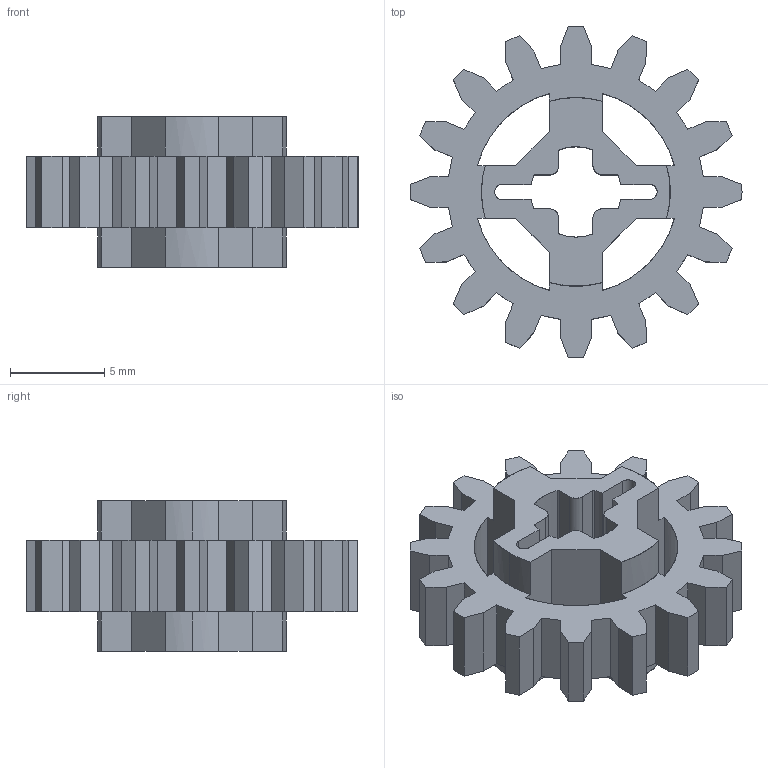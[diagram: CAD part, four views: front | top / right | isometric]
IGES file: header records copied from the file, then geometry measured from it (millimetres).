
Start section: C
Global section: file name: ClGray_4640536_JC.iges; native system: By Siemens PLM Incorporated; preprocessor: XPlus GENERIC/IGES 26.1.183; author: Author; organization: Title; date: 20250721.235758; units: millimetre
Bounding box: 17.59 x 17.58 x 8 mm (x, y, z)
Surface area: 1172.9 mm2 (no closed solid volume)
Topology: 0 solids, 0 shells, 160 faces, 984 edges, 984 vertices
Faces by surface type: bspline 160
